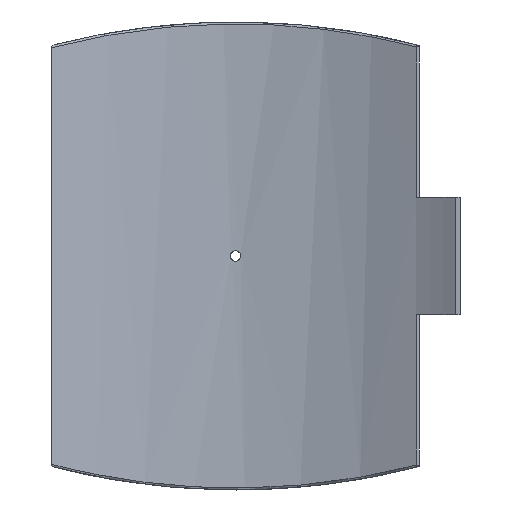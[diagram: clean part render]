
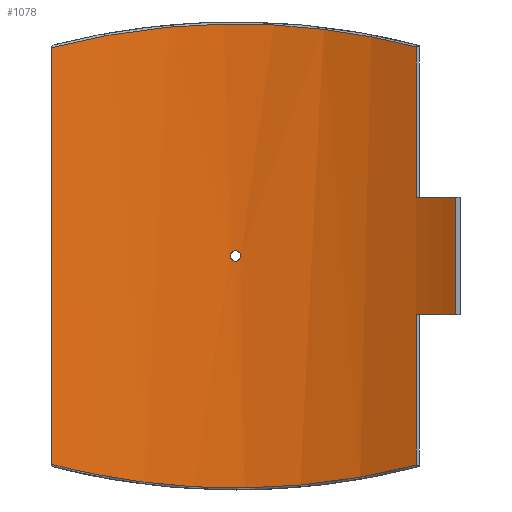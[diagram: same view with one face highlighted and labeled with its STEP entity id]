
A CAD part, front view. The second image highlights one B-rep face of the part: STEP entity #1078.
In plain terms, the highlighted cylindrical face has radius 400 mm (diameter 800 mm), a partial arc.
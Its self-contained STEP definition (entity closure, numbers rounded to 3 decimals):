
#55=FACE_BOUND('',#355,.T.);
#109=B_SPLINE_CURVE_WITH_KNOTS('',3,(#2213,#2214,#2215,#2216,#2217,#2218,
#2219,#2220,#2221,#2222),.UNSPECIFIED.,.F.,.F.,(4,1,1,1,1,1,1,4),(-43.603,
-38.091,-32.579,-27.067,-21.555,
-16.043,-10.531,-5.019),.UNSPECIFIED.);
#110=B_SPLINE_CURVE_WITH_KNOTS('',3,(#2231,#2232,#2233,#2234,#2235,#2236,
#2237,#2238,#2239,#2240),.UNSPECIFIED.,.F.,.F.,(4,1,1,1,1,1,1,4),(-39.956,
-34.444,-28.932,-23.42,-17.908,
-12.396,-6.884,-1.372),.UNSPECIFIED.);
#111=B_SPLINE_CURVE_WITH_KNOTS('',3,(#2243,#2244,#2245,#2246,#2247,#2248,
#2249,#2250,#2251,#2252),.UNSPECIFIED.,.F.,.F.,(4,2,2,2,4),(0.,0.196,
0.392,0.588,0.784),.UNSPECIFIED.);
#112=B_SPLINE_CURVE_WITH_KNOTS('',3,(#2253,#2254,#2255,#2256,#2257,#2258,
#2259,#2260,#2261,#2262,#2263,#2264,#2265,#2266,#2267,#2268,#2269,#2270,
#2271,#2272,#2273,#2274,#2275,#2276,#2277,#2278),.UNSPECIFIED.,.F.,.F.,
(4,2,2,2,2,2,2,2,2,2,2,2,4),(0.784,0.979,1.175,
1.371,1.567,1.763,1.959,2.155,
2.351,2.546,2.742,2.938,3.134),
 .UNSPECIFIED.);
#133=LINE('',#1615,#184);
#144=LINE('',#1902,#195);
#151=LINE('',#2227,#202);
#152=LINE('',#2230,#203);
#184=VECTOR('',#1292,10.);
#195=VECTOR('',#1331,10.);
#202=VECTOR('',#1368,10.);
#203=VECTOR('',#1371,10.);
#244=CYLINDRICAL_SURFACE('',#1175,400.);
#288=FACE_OUTER_BOUND('',#354,.T.);
#354=EDGE_LOOP('',(#839,#840,#841,#842,#843,#844,#845,#846));
#355=EDGE_LOOP('',(#847,#848));
#449=CIRCLE('',#1176,400.);
#450=CIRCLE('',#1177,400.);
#510=VERTEX_POINT('',#1606);
#513=VERTEX_POINT('',#1613);
#533=VERTEX_POINT('',#1895);
#536=VERTEX_POINT('',#1900);
#549=VERTEX_POINT('',#2199);
#550=VERTEX_POINT('',#2224);
#551=VERTEX_POINT('',#2226);
#552=VERTEX_POINT('',#2229);
#553=VERTEX_POINT('',#2241);
#554=VERTEX_POINT('',#2242);
#613=EDGE_CURVE('',#513,#510,#133,.T.);
#643=EDGE_CURVE('',#536,#533,#144,.T.);
#666=EDGE_CURVE('',#549,#536,#109,.T.);
#667=EDGE_CURVE('',#550,#513,#449,.T.);
#668=EDGE_CURVE('',#550,#551,#151,.T.);
#669=EDGE_CURVE('',#533,#551,#450,.T.);
#670=EDGE_CURVE('',#552,#549,#152,.T.);
#671=EDGE_CURVE('',#510,#552,#110,.T.);
#672=EDGE_CURVE('',#553,#554,#111,.T.);
#673=EDGE_CURVE('',#554,#553,#112,.T.);
#839=ORIENTED_EDGE('',*,*,#667,.F.);
#840=ORIENTED_EDGE('',*,*,#668,.T.);
#841=ORIENTED_EDGE('',*,*,#669,.F.);
#842=ORIENTED_EDGE('',*,*,#643,.F.);
#843=ORIENTED_EDGE('',*,*,#666,.F.);
#844=ORIENTED_EDGE('',*,*,#670,.F.);
#845=ORIENTED_EDGE('',*,*,#671,.F.);
#846=ORIENTED_EDGE('',*,*,#613,.F.);
#847=ORIENTED_EDGE('',*,*,#672,.T.);
#848=ORIENTED_EDGE('',*,*,#673,.T.);
#1078=ADVANCED_FACE('',(#288,#55),#244,.F.);
#1175=AXIS2_PLACEMENT_3D('',#2223,#1364,#1365);
#1176=AXIS2_PLACEMENT_3D('',#2225,#1366,#1367);
#1177=AXIS2_PLACEMENT_3D('',#2228,#1369,#1370);
#1292=DIRECTION('',(0.,0.,-1.));
#1331=DIRECTION('',(0.,0.,-1.));
#1364=DIRECTION('center_axis',(0.,0.,1.));
#1365=DIRECTION('ref_axis',(-1.,0.,0.));
#1366=DIRECTION('center_axis',(0.,0.,1.));
#1367=DIRECTION('ref_axis',(-0.553,-0.833,0.));
#1368=DIRECTION('',(0.,0.,1.));
#1369=DIRECTION('center_axis',(0.,0.,-1.));
#1370=DIRECTION('ref_axis',(-0.553,-0.833,0.));
#1371=DIRECTION('',(0.,0.,1.));
#1606=CARTESIAN_POINT('',(181.592,356.405,-209.95));
#1613=CARTESIAN_POINT('',(181.592,356.405,-58.75));
#1615=CARTESIAN_POINT('',(181.592,356.405,0.));
#1895=CARTESIAN_POINT('',(181.592,356.405,58.75));
#1900=CARTESIAN_POINT('',(181.592,356.405,209.95));
#1902=CARTESIAN_POINT('',(181.592,356.405,0.));
#2199=CARTESIAN_POINT('',(-184.5,354.908,209.194));
#2213=CARTESIAN_POINT('Ctrl Pts',(-184.5,354.908,209.194));
#2214=CARTESIAN_POINT('Ctrl Pts',(-168.699,363.122,213.34));
#2215=CARTESIAN_POINT('Ctrl Pts',(-135.822,377.529,220.823));
#2216=CARTESIAN_POINT('Ctrl Pts',(-83.498,392.458,228.857));
#2217=CARTESIAN_POINT('Ctrl Pts',(-29.186,400.193,233.105));
#2218=CARTESIAN_POINT('Ctrl Pts',(25.824,400.425,233.234));
#2219=CARTESIAN_POINT('Ctrl Pts',(80.215,393.143,229.231));
#2220=CARTESIAN_POINT('Ctrl Pts',(132.697,378.641,221.414));
#2221=CARTESIAN_POINT('Ctrl Pts',(165.712,364.496,214.047));
#2222=CARTESIAN_POINT('Ctrl Pts',(181.592,356.405,209.95));
#2223=CARTESIAN_POINT('Origin',(0.,0.,0.));
#2224=CARTESIAN_POINT('',(221.025,333.389,-58.75));
#2225=CARTESIAN_POINT('Origin',(0.,0.,
-58.75));
#2226=CARTESIAN_POINT('',(221.025,333.389,58.75));
#2227=CARTESIAN_POINT('',(221.025,333.389,0.));
#2228=CARTESIAN_POINT('Origin',(0.,0.,
58.75));
#2229=CARTESIAN_POINT('',(-184.5,354.908,-209.194));
#2230=CARTESIAN_POINT('',(-184.5,354.908,0.));
#2231=CARTESIAN_POINT('Ctrl Pts',(181.592,356.405,-209.95));
#2232=CARTESIAN_POINT('Ctrl Pts',(165.712,364.496,-214.047));
#2233=CARTESIAN_POINT('Ctrl Pts',(132.696,378.64,-221.414));
#2234=CARTESIAN_POINT('Ctrl Pts',(80.216,393.143,-229.231));
#2235=CARTESIAN_POINT('Ctrl Pts',(25.824,400.425,-233.234));
#2236=CARTESIAN_POINT('Ctrl Pts',(-29.186,400.193,-233.105));
#2237=CARTESIAN_POINT('Ctrl Pts',(-83.498,392.458,-228.857));
#2238=CARTESIAN_POINT('Ctrl Pts',(-135.822,377.529,-220.823));
#2239=CARTESIAN_POINT('Ctrl Pts',(-168.699,363.122,-213.34));
#2240=CARTESIAN_POINT('Ctrl Pts',(-184.5,354.908,-209.194));
#2241=CARTESIAN_POINT('',(5.2,399.966,0.));
#2242=CARTESIAN_POINT('',(0.,400.,-5.2));
#2243=CARTESIAN_POINT('Ctrl Pts',(5.2,399.966,0.));
#2244=CARTESIAN_POINT('Ctrl Pts',(5.2,399.966,-0.653));
#2245=CARTESIAN_POINT('Ctrl Pts',(5.07,399.968,-1.349));
#2246=CARTESIAN_POINT('Ctrl Pts',(4.539,399.974,-2.631));
#2247=CARTESIAN_POINT('Ctrl Pts',(4.139,399.979,-3.215));
#2248=CARTESIAN_POINT('Ctrl Pts',(3.215,399.987,-4.139));
#2249=CARTESIAN_POINT('Ctrl Pts',(2.631,399.992,-4.539));
#2250=CARTESIAN_POINT('Ctrl Pts',(1.349,399.998,-5.07));
#2251=CARTESIAN_POINT('Ctrl Pts',(0.653,400.,-5.2));
#2252=CARTESIAN_POINT('Ctrl Pts',(0.,400.,-5.2));
#2253=CARTESIAN_POINT('Ctrl Pts',(0.,400.,-5.2));
#2254=CARTESIAN_POINT('Ctrl Pts',(-0.653,400.,-5.2));
#2255=CARTESIAN_POINT('Ctrl Pts',(-1.349,399.998,-5.07));
#2256=CARTESIAN_POINT('Ctrl Pts',(-2.631,399.992,-4.539));
#2257=CARTESIAN_POINT('Ctrl Pts',(-3.215,399.987,-4.139));
#2258=CARTESIAN_POINT('Ctrl Pts',(-4.139,399.979,-3.215));
#2259=CARTESIAN_POINT('Ctrl Pts',(-4.539,399.974,-2.631));
#2260=CARTESIAN_POINT('Ctrl Pts',(-5.07,399.968,-1.349));
#2261=CARTESIAN_POINT('Ctrl Pts',(-5.2,399.966,-0.653));
#2262=CARTESIAN_POINT('Ctrl Pts',(-5.2,399.966,0.653));
#2263=CARTESIAN_POINT('Ctrl Pts',(-5.07,399.968,1.349));
#2264=CARTESIAN_POINT('Ctrl Pts',(-4.539,399.974,2.631));
#2265=CARTESIAN_POINT('Ctrl Pts',(-4.139,399.979,3.215));
#2266=CARTESIAN_POINT('Ctrl Pts',(-3.215,399.987,4.139));
#2267=CARTESIAN_POINT('Ctrl Pts',(-2.631,399.992,4.539));
#2268=CARTESIAN_POINT('Ctrl Pts',(-1.349,399.998,5.07));
#2269=CARTESIAN_POINT('Ctrl Pts',(-0.653,400.,5.2));
#2270=CARTESIAN_POINT('Ctrl Pts',(0.653,400.,5.2));
#2271=CARTESIAN_POINT('Ctrl Pts',(1.349,399.998,5.07));
#2272=CARTESIAN_POINT('Ctrl Pts',(2.631,399.992,4.539));
#2273=CARTESIAN_POINT('Ctrl Pts',(3.215,399.987,4.139));
#2274=CARTESIAN_POINT('Ctrl Pts',(4.139,399.979,3.215));
#2275=CARTESIAN_POINT('Ctrl Pts',(4.539,399.974,2.631));
#2276=CARTESIAN_POINT('Ctrl Pts',(5.07,399.968,1.349));
#2277=CARTESIAN_POINT('Ctrl Pts',(5.2,399.966,0.653));
#2278=CARTESIAN_POINT('Ctrl Pts',(5.2,399.966,0.));
